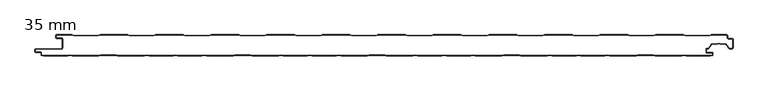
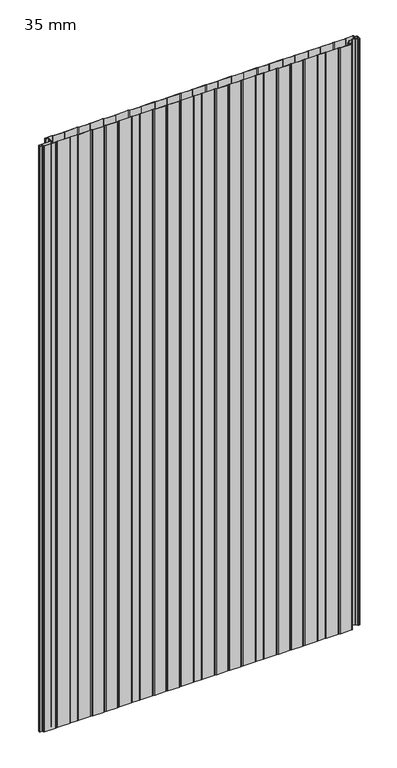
"""IFC4 building model written with IfcOpenShell, lengths in millimetres: plate geometry, HIANSA PANEL - H20.F02.002-PANELES DE FACHADA VERTICAL - PANEL PERFILADO - Panel de Muro Cortina : 35 mm."""

from ifc_helpers import new_model, si_unit, point, frame_2d, origin, origin_with_axes, place, context, project, spatial, polyline, circle_curve, trimmed, segment, composite_curve, outline, extrude, source, transform, mapped, element, save


def plate_35_mm_239c5791(model_context):
    return source(origin(), model_context, "Body", "SweptSolid", [
        extrude(outline(polyline([(573.0810465, -18.7821941), (573.0810465, -12.9009472), (573.5810465, -13.7002592), (573.5810465, -18.010534), (573.0810465, -18.7821941)])), origin_with_axes(), (0.0, 0.0, 1.0), 2200.0),
        extrude(outline(polyline([(-524.3789535, -12.9205789), (-524.3789535, -18.8267994), (-524.8789535, -18.010534), (-524.8789535, -13.7002592), (-524.3789535, -12.9205789)])), origin_with_axes(), (0.0, 0.0, 1.0), 2200.0),
        extrude(outline(composite_curve([segment(polyline([(-506.0322682, -0.9999995), (-466.0322682, -0.9999995), (-463.0322682, 5e-07), (-418.0322682, 5e-07), (-415.0322682, -0.9999995), (-375.0322682, -0.9999995), (-372.0322682, 5e-07), (-327.0322682, 5e-07), (-324.0322682, -0.9999995), (-284.0322682, -0.9999995), (-281.0322682, 5e-07), (-236.0322682, 5e-07), (-233.0322682, -0.9999995), (-193.0322682, -0.9999995), (-190.0322682, 5e-07), (-145.0322682, 5e-07), (-142.0322682, -0.9999995), (-102.0322682, -0.9999995), (-99.0322682, 5e-07), (-54.0322682, 5e-07), (-51.0322682, -0.9999995), (-11.0322682, -0.9999995), (-8.0322682, 5e-07), (36.9677318, 5e-07), (39.9677318, -0.9999995), (79.9677318, -0.9999995), (82.9677318, 5e-07), (127.9677318, 5e-07), (130.9677318, -0.9999995), (170.9677318, -0.9999995), (173.9677318, 5e-07), (218.9677318, 5e-07), (221.9677318, -0.9999995), (261.9677318, -0.9999995), (264.9677318, 5e-07), (309.9677318, 5e-07), (312.9677318, -0.9999995), (352.9677318, -0.9999995), (355.9677318, 5e-07), (400.9677318, 5e-07), (403.9677318, -0.9999995), (443.9677318, -0.9999995), (446.9677318, 5e-07), (491.9677318, 5e-07), (494.9677318, -0.9999995), (534.9677318, -0.9999995), (537.9677318, 5e-07), (562.9277318, 5e-07)]), True, "CONTINUOUS"), segment(trimmed(circle_curve(frame_2d((562.9277318, -1.4999995)), 1.5), [point((562.9277318, 5e-07))], [point((564.4277318, -1.5000018))], False, "CARTESIAN"), True, "CONTINUOUS"), segment(polyline([(564.4277318, -1.5000018), (564.4277269, -4.746003)]), True, "CONTINUOUS"), segment(trimmed(circle_curve(frame_2d((565.9317269, -4.7460053)), 1.504), [point((564.4277269, -4.746003))], [point((565.9317269, -6.2500053))], True, "CARTESIAN"), True, "CONTINUOUS"), segment(polyline([(565.9317269, -6.2500053), (572.0810464, -6.2500053)]), True, "CONTINUOUS"), segment(trimmed(circle_curve(frame_2d((572.0810464, -7.7500053)), 1.5), [point((572.0810464, -6.2500053))], [point((573.5810464, -7.7500053))], False, "CARTESIAN"), True, "CONTINUOUS"), segment(polyline([(573.5810464, -7.7500053), (573.5810464, -13.7002592), (573.0810464, -12.9009472), (573.0810464, -7.7499995)]), True, "CONTINUOUS"), segment(trimmed(circle_curve(frame_2d((572.0810464, -7.7499995)), 1.0), [point((573.0810464, -7.7499995))], [point((572.0810464, -6.7499995))], True, "CARTESIAN"), True, "CONTINUOUS"), segment(polyline([(572.0810464, -6.7499995), (565.9317318, -6.7499995)]), True, "CONTINUOUS"), segment(trimmed(circle_curve(frame_2d((565.9317318, -4.7459995)), 2.004), [point((565.9317318, -6.7499995))], [point((563.9277318, -4.7459995))], False, "CARTESIAN"), True, "CONTINUOUS"), segment(polyline([(563.9277318, -4.7459995), (563.9277318, -1.4999995)]), True, "CONTINUOUS"), segment(trimmed(circle_curve(frame_2d((562.9277318, -1.4999995)), 1.0), [point((563.9277318, -1.4999995))], [point((562.9277318, -0.4999995))], True, "CARTESIAN"), True, "CONTINUOUS"), segment(polyline([(562.9277318, -0.4999995), (538.0488706, -0.4999995), (535.0488706, -1.4999995), (494.8865929, -1.4999995), (491.8865929, -0.4999995), (447.0488706, -0.4999995), (444.0488706, -1.4999995), (403.8865929, -1.4999995), (400.8865929, -0.4999995), (356.0488706, -0.4999995), (353.0488706, -1.4999995), (312.8865929, -1.4999995), (309.8865929, -0.4999995), (265.0488706, -0.4999995), (262.0488706, -1.4999995), (221.8865929, -1.4999995), (218.8865929, -0.4999995), (174.0488706, -0.4999995), (171.0488706, -1.4999995), (130.8865929, -1.4999995), (127.8865929, -0.4999995), (83.0488706, -0.4999995), (80.0488706, -1.4999995), (39.8865929, -1.4999995), (36.8865929, -0.4999995), (-7.9511294, -0.4999995), (-10.9511294, -1.4999995), (-51.1134071, -1.4999995), (-54.1134071, -0.4999995), (-98.9511294, -0.4999995), (-101.9511294, -1.4999995), (-142.1134071, -1.4999995), (-145.1134071, -0.4999995), (-189.9511294, -0.4999995), (-192.9511294, -1.4999995), (-233.1134071, -1.4999995), (-236.1134071, -0.4999995), (-280.9511294, -0.4999995), (-283.9511294, -1.4999995), (-324.1134071, -1.4999995), (-327.1134071, -0.4999995), (-371.9511294, -0.4999995), (-374.9511294, -1.4999995), (-415.1134071, -1.4999995), (-418.1134071, -0.4999995), (-462.9511294, -0.4999995), (-465.9511294, -1.4999995), (-506.1134071, -1.4999995), (-509.1134071, -0.4999995), (-534.0322682, -0.4999995)]), True, "CONTINUOUS"), segment(trimmed(circle_curve(frame_2d((-534.0322682, -1.4999995)), 1.0), [point((-534.0322682, -0.4999995))], [point((-535.0322682, -1.4999976))], True, "CARTESIAN"), True, "CONTINUOUS"), segment(polyline([(-535.0322682, -1.4999976), (-535.0322739, -4.4999976)]), True, "CONTINUOUS"), segment(trimmed(circle_curve(frame_2d((-534.0322682, -4.4999995)), 1.0000057), [point((-535.0322739, -4.4999976))], [point((-534.0322682, -5.5000053))], True, "CARTESIAN"), True, "CONTINUOUS"), segment(polyline([(-534.0322682, -5.5000053), (-526.4189536, -5.5000053)]), True, "CONTINUOUS"), segment(trimmed(circle_curve(frame_2d((-526.4189536, -7.5400053)), 2.04), [point((-526.4189536, -5.5000053))], [point((-524.3789536, -7.5400053))], False, "CARTESIAN"), True, "CONTINUOUS"), segment(polyline([(-524.3789536, -7.5400053), (-524.3789536, -12.9205789), (-524.8789536, -13.7002592), (-524.8789536, -7.5399995)]), True, "CONTINUOUS"), segment(trimmed(circle_curve(frame_2d((-526.4189536, -7.5399995)), 1.54), [point((-524.8789536, -7.5399995))], [point((-526.4189536, -5.9999995))], True, "CARTESIAN"), True, "CONTINUOUS"), segment(polyline([(-526.4189536, -5.9999995), (-534.0322682, -5.9999995)]), True, "CONTINUOUS"), segment(trimmed(circle_curve(frame_2d((-534.0322682, -4.4999995)), 1.5), [point((-534.0322682, -5.9999995))], [point((-535.5322682, -4.4999995))], False, "CARTESIAN"), True, "CONTINUOUS"), segment(polyline([(-535.5322682, -4.4999995), (-535.5322682, -1.4999995)]), True, "CONTINUOUS"), segment(trimmed(circle_curve(frame_2d((-534.0322682, -1.4999995)), 1.5), [point((-535.5322682, -1.4999995))], [point((-534.0322682, 5e-07))], False, "CARTESIAN"), True, "CONTINUOUS"), segment(polyline([(-534.0322682, 5e-07), (-509.0322682, 5e-07), (-506.0322682, -0.9999995)]), True, "CONTINUOUS")], self_intersect=False)), origin_with_axes(), (0.0, 0.0, 1.0), 2200.0),
        extrude(outline(composite_curve([segment(polyline([(-526.9188291, -23.8776596), (-569.2000002, -23.8776596), (-569.2000002, -28.6276596), (-560.5344902, -28.6276596)]), True, "CONTINUOUS"), segment(trimmed(circle_curve(frame_2d((-560.5344902, -30.1276596)), 1.5), [point((-560.5344902, -28.6276596))], [point((-559.0344902, -30.1276596))], False, "CARTESIAN"), True, "CONTINUOUS"), segment(polyline([(-559.0344902, -30.1276596), (-559.0344902, -32.5178943)]), True, "CONTINUOUS"), segment(trimmed(circle_curve(frame_2d((-557.6355327, -32.5178943)), 1.3989577), [point((-559.0344902, -32.5178943))], [point((-557.9748298, -33.8750826))], True, "CARTESIAN"), True, "CONTINUOUS"), segment(polyline([(-557.9748298, -33.8750826), (-555.4751594, -34.5), (-516.3760428, -34.5), (-512.31449, -33.4846118), (-508.2529372, -34.5), (-465.1734067, -34.5), (-462.1734067, -33.5), (-436.899129, -33.5), (-433.899129, -34.5), (-390.8195984, -34.5), (-386.7580456, -33.4846118), (-382.6964928, -34.5), (-343.5973762, -34.5), (-339.5358234, -33.4846118), (-335.4742706, -34.5), (-296.375154, -34.5), (-292.3136012, -33.4846118), (-288.2520484, -34.5), (-245.1725179, -34.5), (-242.1725179, -33.5), (-216.8982402, -33.5), (-213.8982402, -34.5), (-170.8187096, -34.5), (-166.7571568, -33.4846118), (-162.695604, -34.5), (-123.5964874, -34.5), (-119.5349346, -33.4846118), (-115.4733818, -34.5), (-76.3742652, -34.5), (-72.3127124, -33.4846118), (-68.2511596, -34.5), (-25.1716291, -34.5), (-22.1716291, -33.5), (3.1026486, -33.5), (6.1026486, -34.5), (49.1821792, -34.5), (53.243732, -33.4846118), (57.3052848, -34.5), (96.4044014, -34.5), (100.4659542, -33.4846118), (104.527507, -34.5), (143.6266236, -34.5), (147.6881764, -33.4846118), (151.7497292, -34.5), (194.8292597, -34.5), (197.8292597, -33.5), (223.1035374, -33.5), (226.1035374, -34.5), (269.183068, -34.5), (273.2446208, -33.4846118), (277.3061736, -34.5), (316.4052902, -34.5), (320.466843, -33.4846118), (324.5283958, -34.5), (363.6275124, -34.5), (367.6890652, -33.4846118), (371.750618, -34.5), (414.8301485, -34.5), (417.8301485, -33.5), (443.1044262, -33.5), (446.1044262, -34.5), (489.1839568, -34.5), (493.2455096, -33.4846118), (497.3070624, -34.5), (536.406179, -34.5), (538.9050596, -33.8752798)]), True, "CONTINUOUS"), segment(trimmed(circle_curve(frame_2d((538.5655098, -32.5170803)), 1.4), [point((538.9050596, -33.8752798))], [point((539.9655098, -32.5170803))], True, "CARTESIAN"), True, "CONTINUOUS"), segment(polyline([(539.9655098, -32.5170803), (539.9655098, -29.8776596), (530.7999998, -29.8776596)]), True, "CONTINUOUS"), segment(trimmed(circle_curve(frame_2d((530.7999998, -28.3776596)), 1.5), [point((530.7999998, -29.8776596))], [point((529.2999998, -28.3776596))], False, "CARTESIAN"), True, "CONTINUOUS"), segment(polyline([(529.2999998, -28.3776596), (529.2999998, -24.1276596)]), True, "CONTINUOUS"), segment(trimmed(circle_curve(frame_2d((530.7999998, -24.1276596)), 1.5), [point((529.2999998, -24.1276596))], [point((530.7999998, -22.6276596))], False, "CARTESIAN"), True, "CONTINUOUS"), segment(polyline([(530.7999998, -22.6276596), (532.401303, -22.6276596)]), True, "CONTINUOUS"), segment(trimmed(circle_curve(frame_2d((532.401303, -21.1276596)), 1.5), [point((532.401303, -22.6276596))], [point((533.630031, -21.9880243))], True, "CARTESIAN"), True, "CONTINUOUS"), segment(polyline([(533.630031, -21.9880243), (537.8715505, -15.9305067)]), True, "CONTINUOUS"), segment(trimmed(circle_curve(frame_2d((539.5098546, -17.0776596)), 2.0), [point((537.8715505, -15.9305067))], [point((539.5098546, -15.0776596))], False, "CARTESIAN"), True, "CONTINUOUS"), segment(polyline([(539.5098546, -15.0776596), (548.6071795, -15.0776596), (549.7999998, -14.3889845)]), True, "CONTINUOUS"), segment(trimmed(circle_curve(frame_2d((550.2999998, -15.2550099)), 1.0), [point((549.7999998, -14.3889845))], [point((550.7999998, -14.3889845))], False, "CARTESIAN"), True, "CONTINUOUS"), segment(polyline([(550.7999998, -14.3889845), (551.9928202, -15.0776596), (561.0901451, -15.0776596)]), True, "CONTINUOUS"), segment(trimmed(circle_curve(frame_2d((561.0901451, -17.0776596)), 2.0), [point((561.0901451, -15.0776596))], [point((562.7284492, -15.9305067))], False, "CARTESIAN"), True, "CONTINUOUS"), segment(polyline([(562.7284492, -15.9305067), (566.9699686, -21.9880243)]), True, "CONTINUOUS"), segment(trimmed(circle_curve(frame_2d((568.1986967, -21.1276596)), 1.5), [point((566.9699686, -21.9880243))], [point((568.1986967, -22.6276596))], True, "CARTESIAN"), True, "CONTINUOUS"), segment(polyline([(568.1986967, -22.6276596), (571.5810464, -22.6276596)]), True, "CONTINUOUS"), segment(trimmed(circle_curve(frame_2d((571.5810464, -21.1276596)), 1.5), [point((571.5810464, -22.6276596))], [point((573.0810464, -21.1276596))], True, "CARTESIAN"), True, "CONTINUOUS"), segment(polyline([(573.0810464, -21.1276596), (573.0810464, -18.7821941), (573.5810464, -18.010534), (573.5810464, -21.1276596)]), True, "CONTINUOUS"), segment(trimmed(circle_curve(frame_2d((571.5810464, -21.1276596)), 2.0), [point((573.5810464, -21.1276596))], [point((571.5810464, -23.1276596))], False, "CARTESIAN"), True, "CONTINUOUS"), segment(polyline([(571.5810464, -23.1276596), (568.1986967, -23.1276596)]), True, "CONTINUOUS"), segment(trimmed(circle_curve(frame_2d((568.1986967, -21.1276596)), 2.0), [point((568.1986967, -23.1276596))], [point((566.5603926, -22.2748125))], False, "CARTESIAN"), True, "CONTINUOUS"), segment(polyline([(566.5603926, -22.2748125), (562.3188732, -16.2172949)]), True, "CONTINUOUS"), segment(trimmed(circle_curve(frame_2d((561.0901451, -17.0776596)), 1.5), [point((562.3188732, -16.2172949))], [point((561.0901451, -15.5776596))], True, "CARTESIAN"), True, "CONTINUOUS"), segment(polyline([(561.0901451, -15.5776596), (551.8588456, -15.5776596), (550.2999998, -14.6776596), (548.7411541, -15.5776596), (539.5098546, -15.5776596)]), True, "CONTINUOUS"), segment(trimmed(circle_curve(frame_2d((539.5098546, -17.0776596)), 1.5), [point((539.5098546, -15.5776596))], [point((538.2811265, -16.2172949))], True, "CARTESIAN"), True, "CONTINUOUS"), segment(polyline([(538.2811265, -16.2172949), (534.0396071, -22.2748125)]), True, "CONTINUOUS"), segment(trimmed(circle_curve(frame_2d((532.401303, -21.1276596)), 2.0), [point((534.0396071, -22.2748125))], [point((532.401303, -23.1276596))], False, "CARTESIAN"), True, "CONTINUOUS"), segment(polyline([(532.401303, -23.1276596), (530.7999998, -23.1276596)]), True, "CONTINUOUS"), segment(trimmed(circle_curve(frame_2d((530.7999998, -24.1276596)), 1.0), [point((530.7999998, -23.1276596))], [point((529.7999998, -24.1276596))], True, "CARTESIAN"), True, "CONTINUOUS"), segment(polyline([(529.7999998, -24.1276596), (529.7999998, -28.3776596)]), True, "CONTINUOUS"), segment(trimmed(circle_curve(frame_2d((530.7999998, -28.3776596)), 1.0), [point((529.7999998, -28.3776596))], [point((530.7999998, -29.3776596))], True, "CARTESIAN"), True, "CONTINUOUS"), segment(polyline([(530.7999998, -29.3776596), (539.4655098, -29.3776596)]), True, "CONTINUOUS"), segment(trimmed(circle_curve(frame_2d((539.4655098, -30.3776596)), 1.0), [point((539.4655098, -29.3776596))], [point((540.4655098, -30.3776596))], False, "CARTESIAN"), True, "CONTINUOUS"), segment(polyline([(540.4655098, -30.3776596), (540.4655098, -32.5170803)]), True, "CONTINUOUS"), segment(trimmed(circle_curve(frame_2d((538.5655098, -32.5170803)), 1.9), [point((540.4655098, -32.5170803))], [point((539.0263275, -34.3603511))], False, "CARTESIAN"), True, "CONTINUOUS"), segment(polyline([(539.0263275, -34.3603511), (536.4677318, -35.0), (497.2455096, -35.0), (493.2455096, -34.0), (489.2455096, -35.0), (446.0232874, -35.0), (443.0232874, -34.0), (417.9112874, -34.0), (414.9112874, -35.0), (371.6890652, -35.0), (367.6890652, -34.0), (363.6890652, -35.0), (324.466843, -35.0), (320.466843, -34.0), (316.466843, -35.0), (277.2446208, -35.0), (273.2446208, -34.0), (269.2446208, -35.0), (226.0223986, -35.0), (223.0223986, -34.0), (197.9103986, -34.0), (194.9103986, -35.0), (151.6881764, -35.0), (147.6881764, -34.0), (143.6881764, -35.0), (104.4659542, -35.0), (100.4659542, -34.0), (96.4659542, -35.0), (57.243732, -35.0), (53.243732, -34.0), (49.243732, -35.0), (6.0215098, -35.0), (3.0215098, -34.0), (-22.0904902, -34.0), (-25.0904902, -35.0), (-68.3127124, -35.0), (-72.3127124, -34.0), (-76.3127124, -35.0), (-115.5349346, -35.0), (-119.5349346, -34.0), (-123.5349346, -35.0), (-162.7571568, -35.0), (-166.7571568, -34.0), (-170.7571568, -35.0), (-213.979379, -35.0), (-216.979379, -34.0), (-242.091379, -34.0), (-245.091379, -35.0), (-288.3136012, -35.0), (-292.3136012, -34.0), (-296.3136012, -35.0), (-335.5358234, -35.0), (-339.5358234, -34.0), (-343.5358234, -35.0), (-382.7580456, -35.0), (-386.7580456, -34.0), (-390.7580456, -35.0), (-433.9802678, -35.0), (-436.9802678, -34.0), (-462.0922678, -34.0), (-465.0922678, -35.0), (-508.31449, -35.0), (-512.31449, -34.0), (-516.31449, -35.0), (-555.5367122, -35.0), (-558.0951211, -34.3603978)]), True, "CONTINUOUS"), segment(trimmed(circle_curve(frame_2d((-557.6342435, -32.5168877)), 1.9002467), [point((-558.0951211, -34.3603978))], [point((-559.5344902, -32.5168877))], False, "CARTESIAN"), True, "CONTINUOUS"), segment(polyline([(-559.5344902, -32.5168877), (-559.5344902, -30.1276596)]), True, "CONTINUOUS"), segment(trimmed(circle_curve(frame_2d((-560.5344902, -30.1276596)), 1.0), [point((-559.5344902, -30.1276596))], [point((-560.5344902, -29.1276596))], True, "CARTESIAN"), True, "CONTINUOUS"), segment(polyline([(-560.5344902, -29.1276596), (-568.7000002, -29.1276596)]), True, "CONTINUOUS"), segment(trimmed(circle_curve(frame_2d((-568.7000002, -28.1276596)), 1.0), [point((-568.7000002, -29.1276596))], [point((-569.7000002, -28.1276596))], False, "CARTESIAN"), True, "CONTINUOUS"), segment(polyline([(-569.7000002, -28.1276596), (-569.7000002, -24.3776596)]), True, "CONTINUOUS"), segment(trimmed(circle_curve(frame_2d((-568.7000002, -24.3776596)), 1.0), [point((-569.7000002, -24.3776596))], [point((-568.7000002, -23.3776596))], False, "CARTESIAN"), True, "CONTINUOUS"), segment(polyline([(-568.7000002, -23.3776596), (-526.9188291, -23.3776596)]), True, "CONTINUOUS"), segment(trimmed(circle_curve(frame_2d((-526.9188291, -21.3376596)), 2.04), [point((-526.9188291, -23.3776596))], [point((-524.8788291, -21.3375833))], True, "CARTESIAN"), True, "CONTINUOUS"), segment(polyline([(-524.8788291, -21.3375833), (-524.8789536, -18.010534), (-524.3788291, -18.8270027), (-524.3788291, -21.3376596)]), True, "CONTINUOUS"), segment(trimmed(circle_curve(frame_2d((-526.9188291, -21.3376596)), 2.54), [point((-524.3788291, -21.3376596))], [point((-526.9188291, -23.8776596))], False, "CARTESIAN"), True, "CONTINUOUS")], self_intersect=False)), origin_with_axes(), (0.0, 0.0, 1.0), 2200.0),
    ])


if __name__ == "__main__":
    model = new_model("IFC4")
    model_context = context("Model", 3, world=origin())
    ifc_project = project(units=[si_unit("LENGTHUNIT", "METRE", prefix="MILLI")], contexts=[model_context])
    site = spatial("IfcSite", under=ifc_project)
    building = spatial("IfcBuilding", under=site)
    placement = place(None, origin())
    plate_35_mm_shape = plate_35_mm_239c5791(model_context)
    element("IfcPlate", 1, ObjectType="HIANSA PANEL - H20.F02.002-PANELES DE FACHADA VERTICAL - PANEL PERFILADO - Panel de Muro Cortina : 35 mm", at=placement, inside=building, context=model_context, shape_type="MappedRepresentation", body=[
        mapped(plate_35_mm_shape, transform((0.0, 0.0, 0.0), x_axis=(1.0, 0.0, 0.0), y_axis=(0.0, 1.0, 0.0), z_axis=(0.0, 0.0, 1.0))),
    ])
    save(model, "model.ifc")
